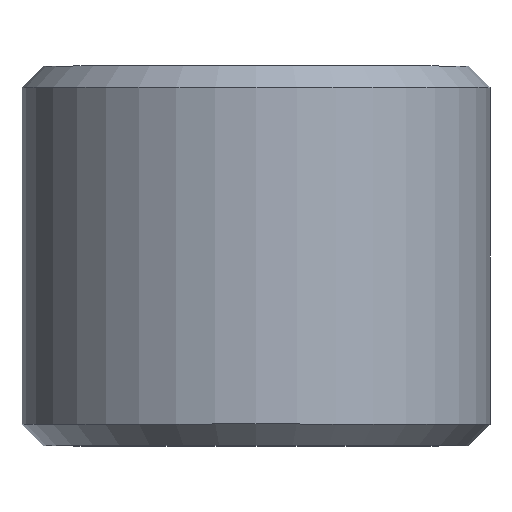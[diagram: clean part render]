
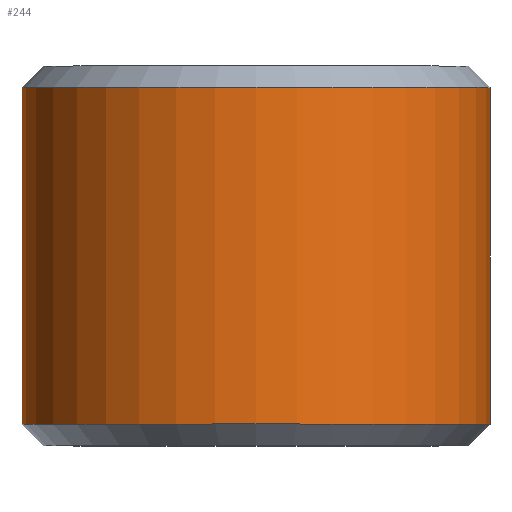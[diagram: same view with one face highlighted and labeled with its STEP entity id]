
A CAD part, top view. The second image highlights one B-rep face of the part: STEP entity #244.
In plain terms, the highlighted cylindrical face has radius 3.914 mm (diameter 7.828 mm), a full revolution.
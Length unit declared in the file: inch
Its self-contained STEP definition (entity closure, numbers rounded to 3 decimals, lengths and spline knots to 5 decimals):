
#16=CYLINDRICAL_SURFACE('',#274,0.1541);
#18=CIRCLE('',#272,0.1541);
#19=CIRCLE('',#273,0.1541);
#20=CIRCLE('',#275,0.1541);
#21=CIRCLE('',#276,0.1541);
#34=FACE_OUTER_BOUND('',#47,.T.);
#47=EDGE_LOOP('',(#193,#194,#195,#196,#197,#198));
#67=LINE('',#425,#83);
#83=VECTOR('',#321,0.156);
#117=VERTEX_POINT('',#418);
#118=VERTEX_POINT('',#420);
#119=VERTEX_POINT('',#424);
#120=VERTEX_POINT('',#426);
#149=EDGE_CURVE('',#117,#118,#18,.F.);
#150=EDGE_CURVE('',#118,#117,#19,.F.);
#151=EDGE_CURVE('',#118,#119,#67,.T.);
#152=EDGE_CURVE('',#120,#119,#20,.F.);
#153=EDGE_CURVE('',#119,#120,#21,.F.);
#193=ORIENTED_EDGE('',*,*,#150,.F.);
#194=ORIENTED_EDGE('',*,*,#151,.T.);
#195=ORIENTED_EDGE('',*,*,#152,.F.);
#196=ORIENTED_EDGE('',*,*,#153,.F.);
#197=ORIENTED_EDGE('',*,*,#151,.F.);
#198=ORIENTED_EDGE('',*,*,#149,.F.);
#244=ADVANCED_FACE('',(#34),#16,.T.);
#272=AXIS2_PLACEMENT_3D('',#421,#315,#316);
#273=AXIS2_PLACEMENT_3D('',#422,#317,#318);
#274=AXIS2_PLACEMENT_3D('',#423,#319,#320);
#275=AXIS2_PLACEMENT_3D('',#427,#322,#323);
#276=AXIS2_PLACEMENT_3D('',#428,#324,#325);
#315=DIRECTION('center_axis',(0.,1.,0.));
#316=DIRECTION('ref_axis',(0.,0.,-1.));
#317=DIRECTION('center_axis',(0.,1.,0.));
#318=DIRECTION('ref_axis',(0.,0.,-1.));
#319=DIRECTION('center_axis',(0.,-1.,0.));
#320=DIRECTION('ref_axis',(0.,0.,-1.));
#321=DIRECTION('',(0.,1.,0.));
#322=DIRECTION('center_axis',(0.,-1.,0.));
#323=DIRECTION('ref_axis',(0.,0.,-1.));
#324=DIRECTION('center_axis',(0.,-1.,0.));
#325=DIRECTION('ref_axis',(0.,0.,-1.));
#418=CARTESIAN_POINT('',(0.,0.0141,-0.1541));
#420=CARTESIAN_POINT('',(0.,0.0141,0.1541));
#421=CARTESIAN_POINT('Origin',(0.,0.0141,0.));
#422=CARTESIAN_POINT('Origin',(0.,0.0141,0.));
#423=CARTESIAN_POINT('Origin',(0.,0.125,0.));
#424=CARTESIAN_POINT('',(0.,0.2359,0.1541));
#425=CARTESIAN_POINT('',(0.,0.125,0.1541));
#426=CARTESIAN_POINT('',(0.,0.2359,-0.1541));
#427=CARTESIAN_POINT('Origin',(0.,0.2359,0.));
#428=CARTESIAN_POINT('Origin',(0.,0.2359,0.));
